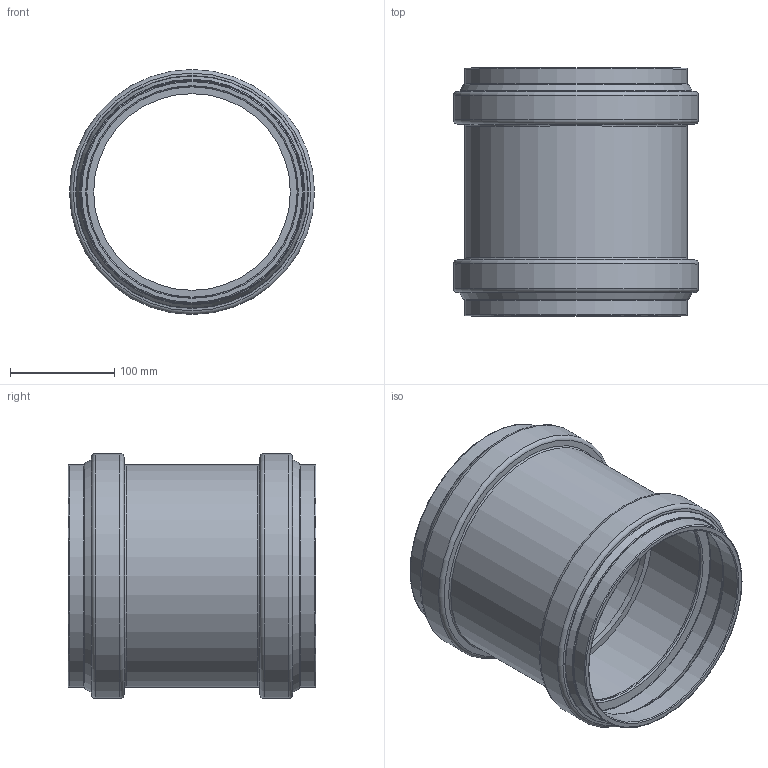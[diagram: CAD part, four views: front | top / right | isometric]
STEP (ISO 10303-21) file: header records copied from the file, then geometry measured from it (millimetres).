
FILE_DESCRIPTION(/* description */ (''),/* implementation_level */ '2;1');
FILE_NAME(/* name */ '777600z.stp',/* time_stamp */ '2025-12-03T12:15:45+01:00',/* author */ ('corinna'),/* organization */ (''),/* preprocessor_version */ 'ST-DEVELOPER v20',/* originating_system */ 'Autodesk Inventor 2024',/* authorisation */ '');
FILE_SCHEMA (('AUTOMOTIVE_DESIGN { 1 0 10303 214 3 1 1 }'));
Length unit declared in the file: millimetre
Products named in the file (1): 777600z
Bounding box: 234.8 x 237.6 x 234.8 mm (x, y, z)
Volume: 1086922.9 mm3; surface area: 371385.6 mm2
Topology: 1 solids, 1 shells, 64 faces, 174 edges, 116 vertices
Faces by surface type: torus 28, cone 16, cylinder 14, plane 6
Full cylindrical faces by diameter (mm): 188.5 x1, 201.5 x2, 201.8 x4, 213.3 x1, 213.6 x2, 223 x2, 234.8 x2
Entity records: 2169 total; most frequent: DIRECTION 448, CARTESIAN_POINT 355, ORIENTED_EDGE 348, AXIS2_PLACEMENT_3D 209, EDGE_CURVE 174, CIRCLE 144, VERTEX_POINT 116, EDGE_LOOP 70
